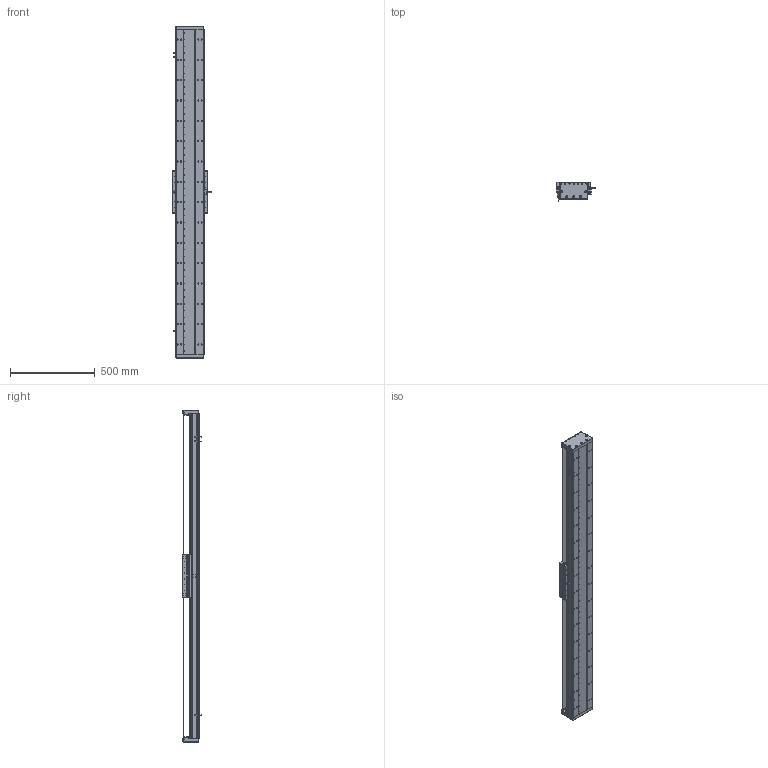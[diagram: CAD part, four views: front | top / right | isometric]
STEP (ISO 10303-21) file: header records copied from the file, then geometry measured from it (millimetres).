
FILE_DESCRIPTION (( 'STEP AP203' ), '1' );
FILE_NAME ('DA-C165-C3-T1620-C010-0.2 直线电机.STEP', '2023-06-13T08:47:54', ( '微软用户' ), ( '微软中国' ), 'SwSTEP 2.0', 'SolidWorks 2019', '' );
FILE_SCHEMA (( 'CONFIG_CONTROL_DESIGN' ));
Length unit declared in the file: millimetre
Products named in the file (18): 珨极趙賑雄怢啣C3-wf; 葩璃 DA95-GT-T-00^IU-CU165-L 菁釱絳寢_T; 复件 DA165-GDLK-00 钢带拉块^复件 CU165钢带组件_DA-C165-C3-T-C010-0.2-N 直线电机; 复件 DA165-GD-DG-H-00 端盖^复件 CU165钢带组件_DA-C165-C3-T-C010-0.2-N 直线电机; 复件 DA165-GDYK-00 钢带压块^复件 CU165钢带组件_DA-C165-C3-T-C010-0.2-N 直线电机; DA-C165-C3-T1620-C010-0.2 眻盄萇儂; 复件 DA95-HXJ-00 缓冲橡胶^DA-C165-C3-T-C010-0.2-N 直线电机; 复件 DMA-010-0.2 读数头^DA-C165-C3-T-C010-0.2-N 直线电机; 复件 CU165 底座^IU-CU165-L 底座导轨_L1920; 复件 XD-U-02L 磁栅尺^DA-C165-C3-T-C010-0.2-N 直线电机_T; 葩璃 CKM03-W075-C1C2-TP-3.0^DA-C165-C3-T-C010-0.2-N 眻盄萇儂; 复件 CU165钢带组件^DA-C165-C3-T-C010-0.2-N 直线电机; 葩璃 CKM01-W075-TRL^DA-C165-C3-T-C010-0.2-N 眻盄萇儂; 复件 DA165-GYP-00 光电感应片^DA-C165-C3-T-C010-0.2-N 直线电机; IU-CU165-L 菁釱絳寢; 复件 六角薄螺母 M3^DA-C165-C3-T-C010-0.2-N 直线电机_GB_FASTENER_NUT_STNAB M3-C; 复件 DA165-GD-1860-002-00 钢带盖板^复件 CU165钢带组件_DA-C165-C3-T-C010-0.2-N 直线电机; 葩璃 PM-T45^DA-C165-C3-T-C010-0.2-N 眻盄萇儂
Assembly tree (35 placements, depth 3):
  DA-C165-C3-T1620-C010-0.2 眻盄萇儂
    IU-CU165-L 菁釱絳寢
      复件 CU165 底座^IU-CU165-L 底座导轨_L1920
      葩璃 DA95-GT-T-00^IU-CU165-L 菁釱絳寢_T  x4
    复件 XD-U-02L 磁栅尺^DA-C165-C3-T-C010-0.2-N 直线电机_T
    葩璃 PM-T45^DA-C165-C3-T-C010-0.2-N 眻盄萇儂  x3
    葩璃 CKM01-W075-TRL^DA-C165-C3-T-C010-0.2-N 眻盄萇儂
    复件 CU165钢带组件^DA-C165-C3-T-C010-0.2-N 直线电机
      复件 DA165-GD-DG-H-00 端盖^复件 CU165钢带组件_DA-C165-C3-T-C010-0.2-N 直线电机  x2
      复件 DA165-GDYK-00 钢带压块^复件 CU165钢带组件_DA-C165-C3-T-C010-0.2-N 直线电机  x2
      复件 DA165-GD-1860-002-00 钢带盖板^复件 CU165钢带组件_DA-C165-C3-T-C010-0.2-N 直线电机
      复件 DA165-GDLK-00 钢带拉块^复件 CU165钢带组件_DA-C165-C3-T-C010-0.2-N 直线电机  x2
    复件 DA95-HXJ-00 缓冲橡胶^DA-C165-C3-T-C010-0.2-N 直线电机  x4
    复件 DA165-GYP-00 光电感应片^DA-C165-C3-T-C010-0.2-N 直线电机
    复件 DMA-010-0.2 读数头^DA-C165-C3-T-C010-0.2-N 直线电机
    葩璃 CKM03-W075-C1C2-TP-3.0^DA-C165-C3-T-C010-0.2-N 眻盄萇儂
    复件 六角薄螺母 M3^DA-C165-C3-T-C010-0.2-N 直线电机_GB_FASTENER_NUT_STNAB M3-C  x8
    珨极趙賑雄怢啣C3-wf
Bounding box: 233 x 111.45 x 1960 mm (x, y, z)
Volume: 11967382.2 mm3; surface area: 3458816.4 mm2
Topology: 72 solids, 122 shells, 4018 faces, 11183 edges, 7014 vertices
Faces by surface type: cylinder 2200, plane 1192, cone 576, torus 46, sphere 4
Entity records: 126307 total; most frequent: CARTESIAN_POINT 32473, DIRECTION 19175, ORIENTED_EDGE 19118, EDGE_CURVE 9559, AXIS2_PLACEMENT_3D 7340, VERTEX_POINT 6202, EDGE_LOOP 4523, LINE 4495
